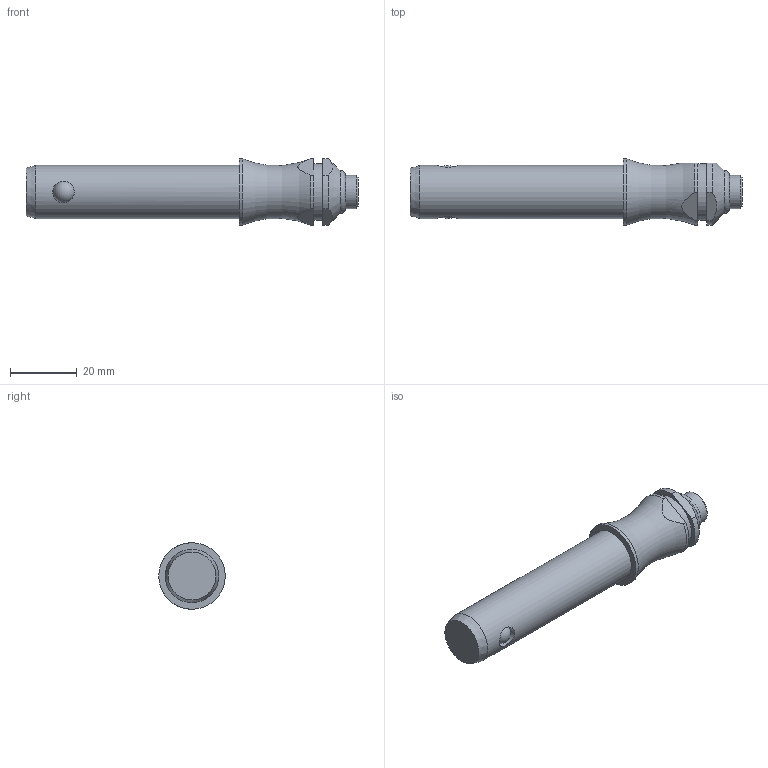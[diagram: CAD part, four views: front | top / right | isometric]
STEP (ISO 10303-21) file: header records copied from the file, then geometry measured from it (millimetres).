
FILE_DESCRIPTION( ( 'STEP AP203' ), '1' );
FILE_NAME( 'C:/Temp/Ganter_Step_05_03_2020/data/3_1/gn113_3/Stainless Steel-Ball lock pin GN 113.3-16-50 (activated).stp', '2020-03-12T08:18:54', ( 'License CC BY-ND 4.0' ), ( 'CADENAS' ), ' ', 'PARTsolutions', ' ' );
FILE_SCHEMA( ( 'CONFIG_CONTROL_DESIGN' ) );
Length unit declared in the file: millimetre
Products named in the file (1): _Stainless Steel-Ball lock pin GN 113.3-16-50 (activated)
Bounding box: 99.75 x 20 x 20 mm (x, y, z)
Volume: 20416.4 mm3; surface area: 5823.7 mm2
Topology: 1 solids, 1 shells, 30 faces, 68 edges, 43 vertices
Faces by surface type: cylinder 12, plane 11, cone 3, torus 2, sphere 2
Full cylindrical faces by diameter (mm): 6.5 x2, 10 x1, 16 x1, 17 x1, 20 x1
Entity records: 1014 total; most frequent: CARTESIAN_POINT 364, DIRECTION 130, ORIENTED_EDGE 102, AXIS2_PLACEMENT_3D 56, EDGE_CURVE 51, EDGE_LOOP 46, VERTEX_POINT 40, FACE_OUTER_BOUND 38
